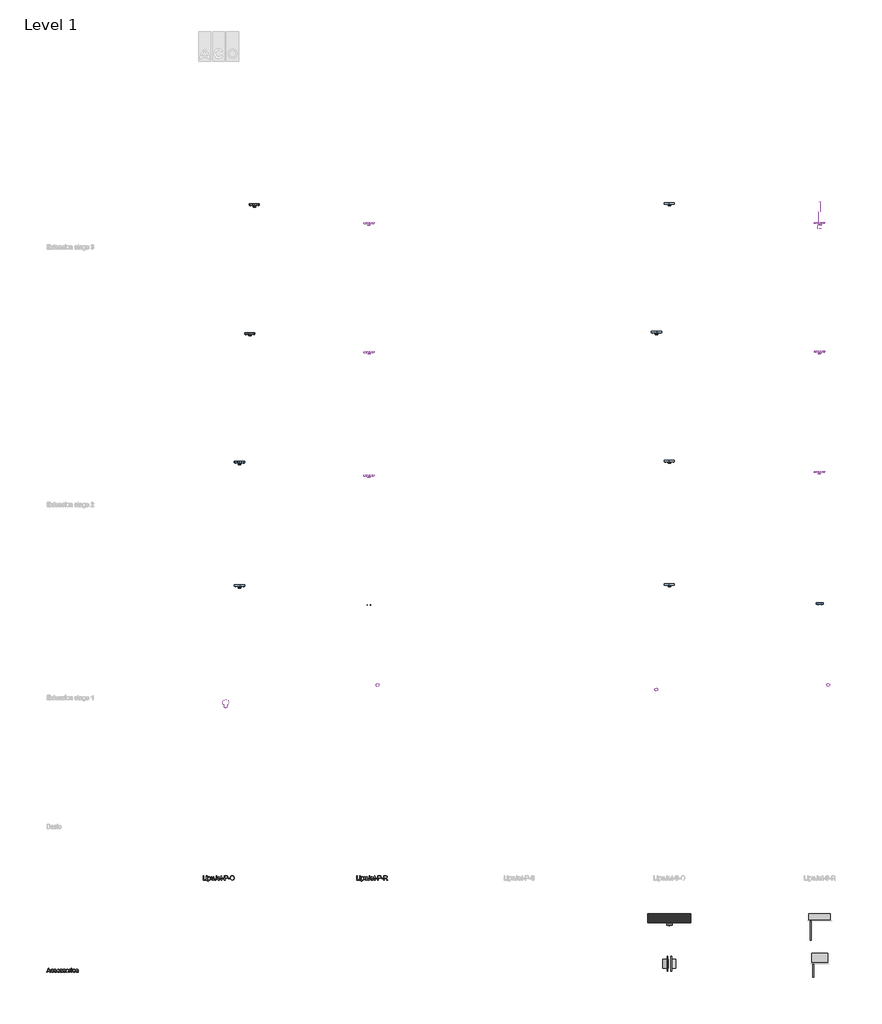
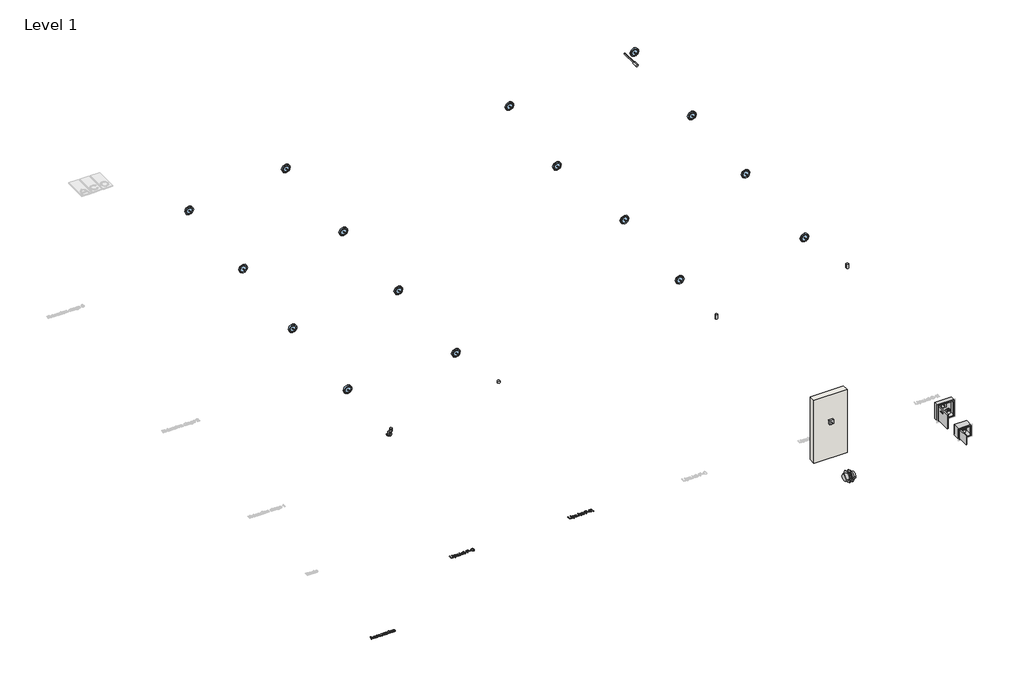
# One storey, part 1 of 3: 16 windows, 5 proxies, 5 unitary equipment elements, 2 furniture elements, 2 pipe fittings, 1 wall.
"""IFC4 building model written with IfcOpenShell, lengths in millimetres."""

from ifc_helpers import new_model, si_unit, origin, origin_with_axes, place, context, project, spatial, polyline, outline, extrude, transform, mapped, element, save
from components import cd_pvc_remote_control_aco_std_7b1f1c58, furniture_370x330x250_330b71c9, furniture_500x500x160_cb3627f5, std_2dac5c2e, ns2_601247f1, ns2_aebbb962, ns4_fcfb2e82, ns4_c199ca5a, std_bcf9d813, std_43f00bc0

model = new_model("IFC4")

# Units and contexts
model_context = context("Model", 3, world=origin())
ifc_project = project(units=[si_unit("LENGTHUNIT", "METRE", prefix="MILLI")], contexts=[model_context])

# Site, building, storey
site = spatial("IfcSite", under=ifc_project)
building = spatial("IfcBuilding", under=site)
storey = spatial("IfcBuildingStorey", under=building, Name="Level 1", Elevation=0.0)

# Proxies
placement = place(None, origin())
element("IfcBuildingElementProxy", 1, Name="100mm ACO", ObjectType="100mm ACO", at=placement, inside=storey, context=model_context, shape_type="SweptSolid", body=[
    extrude(outline(polyline([(702.7777778, -350.0), (639.8148148, -350.0), (639.8148148, -250.0), (652.7777778, -250.0), (652.7777778, -338.8888889), (702.7777778, -338.8888889), (702.7777778, -350.0)])), origin_with_axes(), (0.0, 0.0, 1.0), 10.0),
    extrude(outline(polyline([(728.7037037, -350.0), (715.7407407, -350.0), (715.7407407, -277.7777778), (728.7037037, -277.7777778), (728.7037037, -350.0)])), origin_with_axes(), (0.0, 0.0, 1.0), 10.0),
    extrude(outline(polyline([(728.7037037, -262.962963), (715.7407407, -262.962963), (715.7407407, -250.0), (728.7037037, -250.0), (728.7037037, -262.962963)])), origin_with_axes(), (0.0, 0.0, 1.0), 10.0),
    extrude(outline(polyline([(760.3153935, -286.4872685), (768.7717014, -278.5662616), (780.4398148, -275.9259259), (792.7662037, -278.515625), (802.1990741, -286.2847222), (808.1886574, -298.2132523), (810.1851852, -313.28125), (807.9282407, -329.1702836), (801.1574074, -341.4207176), (791.1024306, -349.2440683), (778.9930556, -351.8518519), (768.6197917, -349.7251157), (760.5324074, -343.3449074), (760.1851852, -377.7777778), (747.2222222, -377.7777778), (747.2222222, -277.7777778), (760.1851852, -277.7777778), (760.3153935, -286.4872685)]), holes=[polyline([(777.5752315, -342.5925926), (785.3479456, -340.766059), (791.6521991, -335.2864583), (795.8297164, -326.1899595), (797.2222222, -313.5127315), (795.880353, -301.4359086), (791.8547454, -292.5202546), (785.7385706, -287.0189525), (778.125, -285.1851852), (770.2437789, -287.2287326), (763.9033565, -293.359375), (759.7258391, -302.7452257), (758.3333333, -314.5543981), (759.6679688, -326.66739), (763.671875, -335.4600694), (769.816985, -340.8094618), (777.5752315, -342.5925926)])]), origin_with_axes(), (0.0, 0.0, 1.0), 10.0),
    extrude(outline(polyline([(884.2592593, -350.0), (873.1481481, -350.0), (873.1481481, -339.4965278), (862.9050926, -348.7630208), (849.9421296, -351.8518519), (835.8217593, -348.3362269), (827.1701389, -338.6574074), (825.0, -322.65625), (825.0, -277.7777778), (837.962963, -277.7777778), (837.962963, -318.75), (838.8599537, -332.8414352), (843.5474537, -339.84375), (852.5752315, -342.5925926), (865.3211806, -337.6736111), (869.8025174, -330.1215278), (871.2962963, -317.3032407), (871.2962963, -277.7777778), (884.2592593, -277.7777778), (884.2592593, -350.0)])), origin_with_axes(), (0.0, 0.0, 1.0), 10.0),
    extrude(outline(polyline([(952.7777778, -318.1134259), (950.9042245, -333.8143808), (945.2835648, -344.1695602), (936.3208912, -349.9312789), (924.4212963, -351.8518519), (912.5217014, -349.9891493), (904.0219907, -344.4010417), (898.9221644, -335.0730613), (897.2222222, -321.9907407), (910.1851852, -320.3703704), (914.0480324, -335.6481481), (925.1157407, -340.7407407), (935.0549769, -337.5), (939.0625, -330.0202546), (939.8148148, -319.4444444), (939.8148148, -250.0), (952.7777778, -250.0), (952.7777778, -318.1134259)])), origin_with_axes(), (0.0, 0.0, 1.0), 10.0),
    extrude(outline(polyline([(1034.2592593, -316.6666667), (980.5555556, -316.6666667), (982.6280382, -327.7922454), (987.3408565, -335.9375), (994.1225405, -340.9288194), (1002.4016204, -342.5925926), (1014.0769676, -338.9033565), (1021.2962963, -327.7777778), (1034.2592593, -329.2824074), (1029.8828125, -338.9033565), (1022.9456019, -346.0069444), (1013.7008102, -350.390625), (1002.4016204, -351.8518519), (987.8146701, -349.3453414), (976.8084491, -341.8258102), (969.8965567, -329.9660012), (967.5925926, -314.4386574), (969.8133681, -298.900463), (976.4756944, -286.6030093), (987.1744792, -278.5951968), (1001.5046296, -275.9259259), (1016.724537, -279.3836806), (1029.1521991, -291.1603009), (1032.9824942, -301.6963252), (1034.2592593, -316.6666667)]), holes=[polyline([(1021.2962963, -307.4074074), (1019.212963, -297.2511574), (1014.4675926, -290.3935185), (1001.1863426, -285.1851852), (993.3304398, -286.7332176), (987.0081019, -291.3773148), (980.5555556, -307.4074074), (1021.2962963, -307.4074074)])]), origin_with_axes(), (0.0, 0.0, 1.0), 10.0),
    extrude(outline(polyline([(1076.8518519, -351.0127315), (1067.7662037, -351.8518519), (1056.177662, -348.9728009), (1051.7361111, -341.6666667), (1050.9259259, -329.3402778), (1050.9259259, -287.037037), (1041.6666667, -287.037037), (1041.6666667, -277.7777778), (1050.9259259, -277.7777778), (1050.9259259, -259.4328704), (1063.8888889, -251.8518519), (1063.8888889, -277.7777778), (1075.0, -277.7777778), (1075.0, -287.037037), (1063.8888889, -287.037037), (1063.8888889, -331.9444444), (1064.9305556, -340.162037), (1070.2256944, -342.5925926), (1075.2604167, -342.5925926), (1076.8518519, -351.0127315)])), origin_with_axes(), (0.0, 0.0, 1.0), 10.0),
    extrude(outline(polyline([(1121.2962963, -316.6666667), (1082.4074074, -316.6666667), (1082.4074074, -307.4074074), (1121.2962963, -307.4074074), (1121.2962963, -316.6666667)])), origin_with_axes(), (0.0, 0.0, 1.0), 10.0),
    extrude(outline(polyline([(1136.1111111, -250.0), (1173.6689815, -250.0), (1188.9756944, -250.8825231), (1200.8969907, -255.46875), (1209.2158565, -265.5237269), (1212.037037, -278.8194444), (1209.8126447, -291.2507234), (1203.1394676, -300.9403935), (1191.5617766, -307.1795428), (1174.6238426, -309.2592593), (1149.0740741, -309.2592593), (1149.0740741, -350.0), (1136.1111111, -350.0), (1136.1111111, -250.0)]), holes=[polyline([(1149.0740741, -298.1481481), (1175.1446759, -298.1481481), (1193.0917245, -293.4100116), (1197.5784867, -287.4873409), (1199.0740741, -279.1956019), (1195.9635417, -268.2146991), (1188.3246528, -262.2829861), (1174.8553241, -261.1111111), (1149.0740741, -261.1111111), (1149.0740741, -298.1481481)])]), origin_with_axes(), (0.0, 0.0, 1.0), 10.0),
    extrude(outline(polyline([(1260.1851852, -316.6666667), (1221.2962963, -316.6666667), (1221.2962963, -307.4074074), (1260.1851852, -307.4074074), (1260.1851852, -316.6666667)])), origin_with_axes(), (0.0, 0.0, 1.0), 10.0),
    extrude(outline(polyline([(1317.6793981, -248.1481481), (1336.1689815, -251.7216435), (1350.9548611, -262.4421296), (1360.6553819, -279.0147569), (1363.8888889, -300.1446759), (1360.6372975, -321.1841725), (1350.8825231, -337.6591435), (1336.078559, -348.3036748), (1317.6793981, -351.8518519), (1298.8064236, -348.1734664), (1284.0277778, -337.1383102), (1274.4791667, -320.808015), (1271.2962963, -301.244213), (1274.5225694, -279.1630498), (1284.2013889, -262.3408565), (1299.0234375, -251.6963252), (1317.6793981, -248.1481481)]), holes=[polyline([(1317.5636574, -340.7407407), (1331.0040509, -338.0570023), (1341.6377315, -330.005787), (1348.5749421, -317.1730324), (1350.9259259, -300.1446759), (1348.5713252, -282.7365451), (1341.5075231, -269.8640046), (1330.8774595, -261.9104456), (1317.8240741, -259.2592593), (1304.4777199, -261.8561921), (1293.7210648, -269.6469907), (1286.6247106, -282.8052662), (1284.2592593, -301.5046296), (1286.5740741, -317.3864294), (1293.5185185, -329.9045139), (1304.1594329, -338.031684), (1317.5636574, -340.7407407)])]), origin_with_axes(), (0.0, 0.0, 1.0), 10.0),
])
element("IfcBuildingElementProxy", 2, Name="100mm ACO", ObjectType="100mm ACO", at=placement, inside=storey, context=model_context, shape_type="SweptSolid", body=[
    extrude(outline(polyline([(4274.9814815, -350.0), (4212.0185185, -350.0), (4212.0185185, -250.0), (4224.9814815, -250.0), (4224.9814815, -338.8888889), (4274.9814815, -338.8888889), (4274.9814815, -350.0)])), origin_with_axes(), (0.0, 0.0, 1.0), 10.0),
    extrude(outline(polyline([(4300.9074074, -350.0), (4287.9444444, -350.0), (4287.9444444, -277.7777778), (4300.9074074, -277.7777778), (4300.9074074, -350.0)])), origin_with_axes(), (0.0, 0.0, 1.0), 10.0),
    extrude(outline(polyline([(4300.9074074, -262.962963), (4287.9444444, -262.962963), (4287.9444444, -250.0), (4300.9074074, -250.0), (4300.9074074, -262.962963)])), origin_with_axes(), (0.0, 0.0, 1.0), 10.0),
    extrude(outline(polyline([(4332.5190972, -286.4872685), (4340.9754051, -278.5662616), (4352.6435185, -275.9259259), (4364.9699074, -278.515625), (4374.4027778, -286.2847222), (4380.3923611, -298.2132523), (4382.3888889, -313.28125), (4380.1319444, -329.1702836), (4373.3611111, -341.4207176), (4363.3061343, -349.2440683), (4351.1967593, -351.8518519), (4340.8234954, -349.7251157), (4332.7361111, -343.3449074), (4332.3888889, -377.7777778), (4319.4259259, -377.7777778), (4319.4259259, -277.7777778), (4332.3888889, -277.7777778), (4332.5190972, -286.4872685)]), holes=[polyline([(4349.7789352, -342.5925926), (4357.5516493, -340.766059), (4363.8559028, -335.2864583), (4368.0334201, -326.1899595), (4369.4259259, -313.5127315), (4368.0840567, -301.4359086), (4364.0584491, -292.5202546), (4357.9422743, -287.0189525), (4350.3287037, -285.1851852), (4342.4474826, -287.2287326), (4336.1070602, -293.359375), (4331.9295428, -302.7452257), (4330.537037, -314.5543981), (4331.8716725, -326.66739), (4335.8755787, -335.4600694), (4342.0206887, -340.8094618), (4349.7789352, -342.5925926)])]), origin_with_axes(), (0.0, 0.0, 1.0), 10.0),
    extrude(outline(polyline([(4456.462963, -350.0), (4445.3518519, -350.0), (4445.3518519, -339.4965278), (4435.1087963, -348.7630208), (4422.1458333, -351.8518519), (4408.025463, -348.3362269), (4399.3738426, -338.6574074), (4397.2037037, -322.65625), (4397.2037037, -277.7777778), (4410.1666667, -277.7777778), (4410.1666667, -318.75), (4411.0636574, -332.8414352), (4415.7511574, -339.84375), (4424.7789352, -342.5925926), (4437.5248843, -337.6736111), (4442.0062211, -330.1215278), (4443.5, -317.3032407), (4443.5, -277.7777778), (4456.462963, -277.7777778), (4456.462963, -350.0)])), origin_with_axes(), (0.0, 0.0, 1.0), 10.0),
    extrude(outline(polyline([(4524.9814815, -318.1134259), (4523.1079282, -333.8143808), (4517.4872685, -344.1695602), (4508.5245949, -349.9312789), (4496.625, -351.8518519), (4484.7254051, -349.9891493), (4476.2256944, -344.4010417), (4471.1258681, -335.0730613), (4469.4259259, -321.9907407), (4482.3888889, -320.3703704), (4486.2517361, -335.6481481), (4497.3194444, -340.7407407), (4507.2586806, -337.5), (4511.2662037, -330.0202546), (4512.0185185, -319.4444444), (4512.0185185, -250.0), (4524.9814815, -250.0), (4524.9814815, -318.1134259)])), origin_with_axes(), (0.0, 0.0, 1.0), 10.0),
    extrude(outline(polyline([(4606.462963, -316.6666667), (4552.7592593, -316.6666667), (4554.8317419, -327.7922454), (4559.5445602, -335.9375), (4566.3262442, -340.9288194), (4574.6053241, -342.5925926), (4586.2806713, -338.9033565), (4593.5, -327.7777778), (4606.462963, -329.2824074), (4602.0865162, -338.9033565), (4595.1493056, -346.0069444), (4585.9045139, -350.390625), (4574.6053241, -351.8518519), (4560.0183738, -349.3453414), (4549.0121528, -341.8258102), (4542.1002604, -329.9660012), (4539.7962963, -314.4386574), (4542.0170718, -298.900463), (4548.6793981, -286.6030093), (4559.3781829, -278.5951968), (4573.7083333, -275.9259259), (4588.9282407, -279.3836806), (4601.3559028, -291.1603009), (4605.1861979, -301.6963252), (4606.462963, -316.6666667)]), holes=[polyline([(4593.5, -307.4074074), (4591.4166667, -297.2511574), (4586.6712963, -290.3935185), (4573.3900463, -285.1851852), (4565.5341435, -286.7332176), (4559.2118056, -291.3773148), (4552.7592593, -307.4074074), (4593.5, -307.4074074)])]), origin_with_axes(), (0.0, 0.0, 1.0), 10.0),
    extrude(outline(polyline([(4649.0555556, -351.0127315), (4639.9699074, -351.8518519), (4628.3813657, -348.9728009), (4623.9398148, -341.6666667), (4623.1296296, -329.3402778), (4623.1296296, -287.037037), (4613.8703704, -287.037037), (4613.8703704, -277.7777778), (4623.1296296, -277.7777778), (4623.1296296, -259.4328704), (4636.0925926, -251.8518519), (4636.0925926, -277.7777778), (4647.2037037, -277.7777778), (4647.2037037, -287.037037), (4636.0925926, -287.037037), (4636.0925926, -331.9444444), (4637.1342593, -340.162037), (4642.4293981, -342.5925926), (4647.4641204, -342.5925926), (4649.0555556, -351.0127315)])), origin_with_axes(), (0.0, 0.0, 1.0), 10.0),
    extrude(outline(polyline([(4693.5, -316.6666667), (4654.6111111, -316.6666667), (4654.6111111, -307.4074074), (4693.5, -307.4074074), (4693.5, -316.6666667)])), origin_with_axes(), (0.0, 0.0, 1.0), 10.0),
    extrude(outline(polyline([(4708.3148148, -250.0), (4745.8726852, -250.0), (4761.1793981, -250.8825231), (4773.1006944, -255.46875), (4781.4195602, -265.5237269), (4784.2407407, -278.8194444), (4782.0163484, -291.2507234), (4775.3431713, -300.9403935), (4763.7654803, -307.1795428), (4746.8275463, -309.2592593), (4721.2777778, -309.2592593), (4721.2777778, -350.0), (4708.3148148, -350.0), (4708.3148148, -250.0)]), holes=[polyline([(4721.2777778, -298.1481481), (4747.3483796, -298.1481481), (4765.2954282, -293.4100116), (4769.7821904, -287.4873409), (4771.2777778, -279.1956019), (4768.1672454, -268.2146991), (4760.5283565, -262.2829861), (4747.0590278, -261.1111111), (4721.2777778, -261.1111111), (4721.2777778, -298.1481481)])]), origin_with_axes(), (0.0, 0.0, 1.0), 10.0),
    extrude(outline(polyline([(4832.3888889, -316.6666667), (4793.5, -316.6666667), (4793.5, -307.4074074), (4832.3888889, -307.4074074), (4832.3888889, -316.6666667)])), origin_with_axes(), (0.0, 0.0, 1.0), 10.0),
    extrude(outline(polyline([(4934.7037037, -350.0), (4919.7152778, -350.0), (4900.9508102, -320.1388889), (4893.181713, -311.009838), (4885.4560185, -306.4959491), (4875.8784722, -305.5555556), (4860.1666667, -305.5555556), (4860.1666667, -350.0), (4847.2037037, -350.0), (4847.2037037, -250.0), (4891.3298611, -250.0), (4906.5063657, -251.1429398), (4917.2413194, -255.9461806), (4924.3449074, -265.1765046), (4926.8333333, -276.9097222), (4925.0176505, -286.9610822), (4919.5706019, -294.8350694), (4910.7019676, -300.3797743), (4898.6215278, -303.443287), (4908.2786458, -310.9302662), (4917.3425926, -322.5983796), (4934.7037037, -350.0)]), holes=[polyline([(4860.1666667, -294.4444444), (4888.9282407, -294.4444444), (4902.7158565, -292.96875), (4910.8321759, -287.2251157), (4913.8703704, -277.6331019), (4908.8211806, -265.9288194), (4902.1335359, -262.3155382), (4892.1689815, -261.1111111), (4860.1666667, -261.1111111), (4860.1666667, -294.4444444)])]), origin_with_axes(), (0.0, 0.0, 1.0), 10.0),
])
element("IfcBuildingElementProxy", 3, Name="100mm ACO", ObjectType="100mm ACO", at=placement, inside=storey, context=model_context, shape_type="SweptSolid", body=[
    extrude(outline(polyline([(-2915.72885, -2500.0), (-2929.5309333, -2500.0), (-2941.5101, -2470.3703704), (-2983.9580167, -2470.3703704), (-2995.4742204, -2500.0), (-3009.2473685, -2500.0), (-2970.3874148, -2400.0), (-2956.2091741, -2400.0), (-2915.72885, -2500.0)]), holes=[polyline([(-2946.0239889, -2459.2592593), (-2960.4481787, -2422.5983796), (-2963.4140352, -2410.9375), (-2968.0726, -2429.5138889), (-2979.6177389, -2459.2592593), (-2946.0239889, -2459.2592593)])]), origin_with_axes(), (0.0, 0.0, 1.0), 10.0),
    extrude(outline(polyline([(-2845.8214426, -2475.5497685), (-2849.8506671, -2487.3553241), (-2857.0193593, -2495.5150463), (-2866.3437227, -2500.2676505), (-2876.8399611, -2501.8518519), (-2891.155644, -2499.2621528), (-2901.8110259, -2491.4930556), (-2908.4299495, -2479.4487847), (-2910.6362574, -2464.0335648), (-2905.6015352, -2441.3483796), (-2893.000262, -2429.3836806), (-2877.1003778, -2425.9259259), (-2857.6414657, -2431.5827546), (-2851.1057308, -2438.566985), (-2847.6732944, -2448.2060185), (-2860.6362574, -2450.0), (-2866.5390352, -2438.9033565), (-2876.9557019, -2435.1851852), (-2885.9111417, -2437.0695891), (-2892.4070907, -2442.7228009), (-2896.3567435, -2451.7541956), (-2897.6732944, -2463.7731481), (-2896.3531266, -2476.0018808), (-2892.3926231, -2485.083912), (-2885.9436937, -2490.7154225), (-2877.1582481, -2492.5925926), (-2864.556975, -2487.962963), (-2858.7844056, -2474.0740741), (-2845.8214426, -2475.5497685)])), origin_with_axes(), (0.0, 0.0, 1.0), 10.0),
    extrude(outline(polyline([(-2777.3029241, -2475.5497685), (-2781.3321486, -2487.3553241), (-2788.5008407, -2495.5150463), (-2797.8252042, -2500.2676505), (-2808.3214426, -2501.8518519), (-2822.6371255, -2499.2621528), (-2833.2925074, -2491.4930556), (-2839.911431, -2479.4487847), (-2842.1177389, -2464.0335648), (-2837.0830167, -2441.3483796), (-2824.4817435, -2429.3836806), (-2808.5818593, -2425.9259259), (-2789.1229472, -2431.5827546), (-2782.5872123, -2438.566985), (-2779.1547759, -2448.2060185), (-2792.1177389, -2450.0), (-2798.0205167, -2438.9033565), (-2808.4371833, -2435.1851852), (-2817.3926231, -2437.0695891), (-2823.8885722, -2442.7228009), (-2827.838225, -2451.7541956), (-2829.1547759, -2463.7731481), (-2827.8346081, -2476.0018808), (-2823.8741046, -2485.083912), (-2817.4251752, -2490.7154225), (-2808.6397296, -2492.5925926), (-2796.0384565, -2487.962963), (-2790.265887, -2474.0740741), (-2777.3029241, -2475.5497685)])), origin_with_axes(), (0.0, 0.0, 1.0), 10.0),
    extrude(outline(polyline([(-2706.9325537, -2466.6666667), (-2760.6362574, -2466.6666667), (-2758.5637748, -2477.7922454), (-2753.8509565, -2485.9375), (-2747.0692725, -2490.9288194), (-2738.7901926, -2492.5925926), (-2727.1148454, -2488.9033565), (-2719.8955167, -2477.7777778), (-2706.9325537, -2479.2824074), (-2711.3090005, -2488.9033565), (-2718.2462111, -2496.0069444), (-2727.4910028, -2500.390625), (-2738.7901926, -2501.8518519), (-2753.3771428, -2499.3453414), (-2764.3833639, -2491.8258102), (-2771.2952562, -2479.9660012), (-2773.5992204, -2464.4386574), (-2771.3784449, -2448.900463), (-2764.7161185, -2436.6030093), (-2754.0173338, -2428.5951968), (-2739.6871833, -2425.9259259), (-2724.4672759, -2429.3836806), (-2712.0396139, -2441.1603009), (-2708.2093187, -2451.6963252), (-2706.9325537, -2466.6666667)]), holes=[polyline([(-2719.8955167, -2457.4074074), (-2721.97885, -2447.2511574), (-2726.7242204, -2440.3935185), (-2740.0054704, -2435.1851852), (-2747.8613731, -2436.7332176), (-2754.1837111, -2441.3773148), (-2760.6362574, -2457.4074074), (-2719.8955167, -2457.4074074)])]), origin_with_axes(), (0.0, 0.0, 1.0), 10.0),
    extrude(outline(polyline([(-2651.3769981, -2448.1481481), (-2656.1657713, -2438.4259259), (-2667.2334796, -2435.1851852), (-2678.547137, -2437.962963), (-2682.8584796, -2446.0358796), (-2680.0083639, -2453.1828704), (-2666.5679704, -2457.0601852), (-2648.8451694, -2461.2268519), (-2639.8029241, -2467.5491898), (-2636.5621833, -2478.8773148), (-2638.5731787, -2487.8074363), (-2644.6061648, -2495.2112269), (-2654.0028662, -2500.1916956), (-2666.1050074, -2501.8518519), (-2678.5796891, -2500.4557292), (-2687.994475, -2496.2673611), (-2694.3565988, -2489.2939815), (-2697.6732944, -2479.5428241), (-2684.7103315, -2477.7777778), (-2679.1113731, -2488.9033565), (-2666.1050074, -2492.5925926), (-2653.8075537, -2488.7586806), (-2649.5251463, -2479.4270833), (-2651.4493361, -2473.4519676), (-2656.2525769, -2470.0810185), (-2669.8376463, -2467.1875), (-2690.7722528, -2459.375), (-2695.8214426, -2446.7881944), (-2693.9515062, -2438.5018808), (-2688.3416972, -2431.8142361), (-2679.5707192, -2427.3980035), (-2668.2172759, -2425.9259259), (-2656.2851289, -2427.2135417), (-2647.3405398, -2431.0763889), (-2641.3835086, -2437.5072338), (-2638.4140352, -2446.4988426), (-2651.3769981, -2448.1481481)])), origin_with_axes(), (0.0, 0.0, 1.0), 10.0),
    extrude(outline(polyline([(-2582.8584796, -2448.1481481), (-2587.6472528, -2438.4259259), (-2598.7149611, -2435.1851852), (-2610.0286185, -2437.962963), (-2614.3399611, -2446.0358796), (-2611.4898454, -2453.1828704), (-2598.0494519, -2457.0601852), (-2580.3266509, -2461.2268519), (-2571.2844056, -2467.5491898), (-2568.0436648, -2478.8773148), (-2570.0546602, -2487.8074363), (-2576.0876463, -2495.2112269), (-2585.4843477, -2500.1916956), (-2597.5864889, -2501.8518519), (-2610.0611706, -2500.4557292), (-2619.4759565, -2496.2673611), (-2625.8380803, -2489.2939815), (-2629.1547759, -2479.5428241), (-2616.191813, -2477.7777778), (-2610.5928546, -2488.9033565), (-2597.5864889, -2492.5925926), (-2585.2890352, -2488.7586806), (-2581.0066278, -2479.4270833), (-2582.9308176, -2473.4519676), (-2587.7340583, -2470.0810185), (-2601.3191278, -2467.1875), (-2622.2537343, -2459.375), (-2627.3029241, -2446.7881944), (-2625.4329877, -2438.5018808), (-2619.8231787, -2431.8142361), (-2611.0522007, -2427.3980035), (-2599.6987574, -2425.9259259), (-2587.7666104, -2427.2135417), (-2578.8220213, -2431.0763889), (-2572.86499, -2437.5072338), (-2569.8955167, -2446.4988426), (-2582.8584796, -2448.1481481)])), origin_with_axes(), (0.0, 0.0, 1.0), 10.0),
    extrude(outline(polyline([(-2525.4800074, -2425.9259259), (-2512.3036475, -2428.3203125), (-2501.594012, -2435.5034722), (-2494.4868072, -2447.0992477), (-2492.1177389, -2462.7314815), (-2494.6821197, -2481.0040509), (-2502.375262, -2492.9976852), (-2513.28021, -2499.6383102), (-2525.4800074, -2501.8518519), (-2538.0704299, -2499.5768229), (-2548.8741046, -2492.7517361), (-2556.3068303, -2480.9859664), (-2558.7844056, -2463.8888889), (-2556.390019, -2447.1715856), (-2549.2068593, -2435.3298611), (-2538.4863731, -2428.2769097), (-2525.4800074, -2425.9259259)]), holes=[polyline([(-2525.4800074, -2492.5925926), (-2516.6728604, -2490.5852141), (-2510.2745676, -2484.5630787), (-2505.0807019, -2463.4259259), (-2506.5491625, -2451.1429398), (-2510.9545444, -2442.3032407), (-2517.5228315, -2436.9646991), (-2525.4800074, -2435.1851852), (-2533.59271, -2436.9900174), (-2540.1067435, -2442.4045139), (-2544.3927678, -2451.3925058), (-2545.8214426, -2463.9178241), (-2544.3674495, -2476.3997396), (-2540.0054704, -2485.3732639), (-2533.4661185, -2490.7877604), (-2525.4800074, -2492.5925926)])]), origin_with_axes(), (0.0, 0.0, 1.0), 10.0),
    extrude(outline(polyline([(-2438.4140352, -2428.7615741), (-2442.4649611, -2437.037037), (-2450.9719056, -2435.1851852), (-2456.7661764, -2436.8127894), (-2460.9545444, -2441.6956019), (-2464.3399611, -2459.9247685), (-2464.3399611, -2500.0), (-2477.3029241, -2500.0), (-2477.3029241, -2427.7777778), (-2466.191813, -2427.7777778), (-2466.191813, -2438.4837963), (-2459.2618361, -2429.0653935), (-2450.8272296, -2425.9259259), (-2438.4140352, -2428.7615741)])), origin_with_axes(), (0.0, 0.0, 1.0), 10.0),
    extrude(outline(polyline([(-2418.0436648, -2500.0), (-2431.0066278, -2500.0), (-2431.0066278, -2427.7777778), (-2418.0436648, -2427.7777778), (-2418.0436648, -2500.0)])), origin_with_axes(), (0.0, 0.0, 1.0), 10.0),
    extrude(outline(polyline([(-2418.0436648, -2412.962963), (-2431.0066278, -2412.962963), (-2431.0066278, -2400.0), (-2418.0436648, -2400.0), (-2418.0436648, -2412.962963)])), origin_with_axes(), (0.0, 0.0, 1.0), 10.0),
    extrude(outline(polyline([(-2336.5621833, -2466.6666667), (-2390.265887, -2466.6666667), (-2388.1934044, -2477.7922454), (-2383.4805861, -2485.9375), (-2376.6989021, -2490.9288194), (-2368.4198222, -2492.5925926), (-2356.744475, -2488.9033565), (-2349.5251463, -2477.7777778), (-2336.5621833, -2479.2824074), (-2340.9386301, -2488.9033565), (-2347.8758407, -2496.0069444), (-2357.1206324, -2500.390625), (-2368.4198222, -2501.8518519), (-2383.0067725, -2499.3453414), (-2394.0129935, -2491.8258102), (-2400.9248859, -2479.9660012), (-2403.22885, -2464.4386574), (-2401.0080745, -2448.900463), (-2394.3457481, -2436.6030093), (-2383.6469634, -2428.5951968), (-2369.316813, -2425.9259259), (-2354.0969056, -2429.3836806), (-2341.6692435, -2441.1603009), (-2337.8389484, -2451.6963252), (-2336.5621833, -2466.6666667)]), holes=[polyline([(-2349.5251463, -2457.4074074), (-2351.6084796, -2447.2511574), (-2356.35385, -2440.3935185), (-2369.6351, -2435.1851852), (-2377.4910028, -2436.7332176), (-2383.8133407, -2441.3773148), (-2390.265887, -2457.4074074), (-2349.5251463, -2457.4074074)])]), origin_with_axes(), (0.0, 0.0, 1.0), 10.0),
    extrude(outline(polyline([(-2281.0066278, -2448.1481481), (-2285.7954009, -2438.4259259), (-2296.8631093, -2435.1851852), (-2308.1767667, -2437.962963), (-2312.4881093, -2446.0358796), (-2309.6379935, -2453.1828704), (-2296.1976, -2457.0601852), (-2278.4747991, -2461.2268519), (-2269.4325537, -2467.5491898), (-2266.191813, -2478.8773148), (-2268.2028083, -2487.8074363), (-2274.2357944, -2495.2112269), (-2283.6324958, -2500.1916956), (-2295.734637, -2501.8518519), (-2308.2093187, -2500.4557292), (-2317.6241046, -2496.2673611), (-2323.9862285, -2489.2939815), (-2327.3029241, -2479.5428241), (-2314.3399611, -2477.7777778), (-2308.7410028, -2488.9033565), (-2295.734637, -2492.5925926), (-2283.4371833, -2488.7586806), (-2279.1547759, -2479.4270833), (-2281.0789657, -2473.4519676), (-2285.8822065, -2470.0810185), (-2299.4672759, -2467.1875), (-2320.4018824, -2459.375), (-2325.4510722, -2446.7881944), (-2323.5811359, -2438.5018808), (-2317.9713269, -2431.8142361), (-2309.2003488, -2427.3980035), (-2297.8469056, -2425.9259259), (-2285.9147586, -2427.2135417), (-2276.9701694, -2431.0763889), (-2271.0131382, -2437.5072338), (-2268.0436648, -2446.4988426), (-2281.0066278, -2448.1481481)])), origin_with_axes(), (0.0, 0.0, 1.0), 10.0),
])
cd_pvc_remote_control_aco_std_shape = cd_pvc_remote_control_aco_std_7b1f1c58(model_context)
element("IfcBuildingElementProxy", 4, Name="CD_PVC_remote control_ACO : std", ObjectType="CD_PVC_remote control_ACO : std", at=placement, inside=storey, context=model_context, shape_type="MappedRepresentation", body=[
    mapped(cd_pvc_remote_control_aco_std_shape, transform((11500.0, -1340.0, 1171.0072803), x_axis=(1.0, 0.0, 0.0), y_axis=(0.0, 0.0, 1.0), z_axis=(0.0, -1.0, 0.0))),
])
element("IfcBuildingElementProxy", 5, Name="ZZZ_do not use_CD_PVC_remote control_ACO : std", ObjectType="ZZZ_do not use_CD_PVC_remote control_ACO : std", at=placement, inside=storey, context=model_context, shape_type="MappedRepresentation", body=[
    mapped(cd_pvc_remote_control_aco_std_shape, transform((15000.0, -1142.0, 362.5), x_axis=(1.0, 0.0, 0.0), y_axis=(0.0, 0.0, 1.0), z_axis=(0.0, -1.0, 0.0))),
])

# Furniture
furniture_370x330x250_shape = furniture_370x330x250_330b71c9(model_context)
element("IfcFurniture", 6, ObjectType="ME_ST_UN_connection box single connection_ACO : 370x330x250", at=placement, inside=storey, context=model_context, shape_type="MappedRepresentation", body=[
    mapped(furniture_370x330x250_shape, transform((15000.0, -2300.0, 0.0), x_axis=(1.0, 0.0, 0.0), y_axis=(0.0, 1.0, 0.0), z_axis=(0.0, 0.0, 1.0))),
])
furniture_500x500x160_shape = furniture_500x500x160_cb3627f5(model_context)
element("IfcFurniture", 7, ObjectType="ME_ST_UN_connection box double connection_ACO : 500x500x160", at=placement, inside=storey, context=model_context, shape_type="MappedRepresentation", body=[
    mapped(furniture_500x500x160_shape, transform((15000.0, -1300.0, 0.0), x_axis=(1.0, 0.0, 0.0), y_axis=(0.0, 1.0, 0.0), z_axis=(0.0, 0.0, 1.0))),
])

# Pipe fittings
std_shape = std_2dac5c2e(model_context)
element("IfcPipeFitting", 8, ObjectType="ZZZ_do not use_PIF_ST_UN_flange_ACO : std", at=placement, inside=storey, context=model_context, shape_type="MappedRepresentation", body=[
    mapped(std_shape, transform((11530.0, -2300.0, 0.0), x_axis=(1.0, 0.0, 0.0), y_axis=(0.0, 1.0, 0.0), z_axis=(0.0, 0.0, 1.0))),
])
element("IfcPipeFitting", 9, ObjectType="ZZZ_do not use_PIF_ST_UN_flange_ACO : std", at=placement, inside=storey, context=model_context, shape_type="MappedRepresentation", body=[
    mapped(std_shape, transform((11470.0, -2300.0, 0.0), x_axis=(-1.0000000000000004, 0.0, 0.0), y_axis=(0.0, -1.0000000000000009, 0.0), z_axis=(0.0, 0.0, 1.0000000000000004))),
])

# Unitary equipment
ns2_shape = ns2_601247f1(model_context)
element("IfcUnitaryEquipment", 10, ObjectType="ME_ST_UN_LipuJet-S-OD extension stage 1_ACO : NS2", at=placement, inside=storey, context=model_context, shape_type="MappedRepresentation", body=[
    mapped(ns2_shape, transform((11500.0, 3850.0, 0.0), x_axis=(1.0, 0.0, 0.0), y_axis=(0.0, 1.0, 0.0), z_axis=(0.0, 0.0, 1.0))),
])
ns2_2_shape = ns2_aebbb962(model_context)
element("IfcUnitaryEquipment", 11, ObjectType="ME_PE_UN_LipuJet-P-OD extension stage 1_ACO : NS2", at=placement, inside=storey, context=model_context, shape_type="MappedRepresentation", body=[
    mapped(ns2_2_shape, transform((1000.0, 3850.0, 0.0), x_axis=(1.0, 0.0, 0.0), y_axis=(0.0, 1.0, 0.0), z_axis=(0.0, 0.0, 1.0))),
])
ns4_shape = ns4_fcfb2e82(model_context)
element("IfcUnitaryEquipment", 12, ObjectType="ME_ST_UN_LipuJet-S-RD extension stage 1_ACO : NS4", at=placement, inside=storey, context=model_context, shape_type="MappedRepresentation", body=[
    mapped(ns4_shape, transform((15000.0, 3850.0, 0.0), x_axis=(1.0, 0.0, 0.0), y_axis=(0.0, 1.0, 0.0), z_axis=(0.0, 0.0, 1.0))),
])
ns4_2_shape = ns4_c199ca5a(model_context)
element("IfcUnitaryEquipment", 13, ObjectType="ME_PE_UN_LipuJet-P-RD extension stage 1_ACO : NS4", at=placement, inside=storey, context=model_context, shape_type="MappedRepresentation", body=[
    mapped(ns4_2_shape, transform((4500.0, 3850.0, 0.0), x_axis=(1.0, 0.0, 0.0), y_axis=(0.0, 1.0, 0.0), z_axis=(0.0, 0.0, 1.0))),
])
std_2_shape = std_bcf9d813(model_context)
element("IfcUnitaryEquipment", 14, ObjectType="ZZZ_do not use_ME_ST_WPB_heating rod_ACO : std", at=placement, inside=storey, context=model_context, shape_type="MappedRepresentation", body=[
    mapped(std_2_shape, transform((15000.0, 14950.0, 1473.0), x_axis=(0.0, 0.0, 1.0), y_axis=(-1.0, 0.0, 0.0), z_axis=(0.0, -1.0, 0.0))),
])

# Wall
element("IfcWall", 15, ObjectType="Wall 1", at=placement, inside=storey, context=model_context, shape_type="SweptSolid", body=[
    extrude(outline(polyline([(12000.0, -1340.0), (11000.0, -1340.0), (11000.0, -1140.0), (12000.0, -1140.0), (12000.0, -1340.0)])), origin_with_axes(), (0.0, 0.0, 1.0), 2000.0),
])

# Windows
std_3_shape = std_43f00bc0(model_context)
element("IfcWindow", 16, ObjectType="ZZZ_do not use_ME_PE_WPB_viewing window LipuJet-P_ACO : std", at=placement, inside=storey, context=model_context, shape_type="MappedRepresentation", body=[
    mapped(std_3_shape, transform((4500.0, 11942.5, 1606.5), x_axis=(0.0, 0.0, 1.0), y_axis=(-1.0, 0.0, 0.0), z_axis=(0.0, -1.0, 0.0))),
])
element("IfcWindow", 17, ObjectType="ZZZ_do not use_ME_PE_WPB_viewing window LipuJet-P_ACO : std", at=placement, inside=storey, context=model_context, shape_type="MappedRepresentation", body=[
    mapped(std_3_shape, transform((4500.0, 14942.5, 1796.5), x_axis=(0.0, 0.0, 1.0), y_axis=(-1.0, 0.0, 0.0), z_axis=(0.0, -1.0, 0.0))),
])
element("IfcWindow", 18, ObjectType="ZZZ_do not use_ME_PE_WPB_viewing window LipuJet-P_ACO : std", at=placement, inside=storey, context=model_context, shape_type="MappedRepresentation", body=[
    mapped(std_3_shape, transform((4500.0, 6070.0, 1302.0), x_axis=(0.0, 0.0, 1.0), y_axis=(-1.0, 0.0, 0.0), z_axis=(0.0, -1.0, 0.0))),
])
element("IfcWindow", 19, ObjectType="ZZZ_do not use_ME_PE_WPB_viewing window LipuJet-P_ACO : std", at=placement, inside=storey, context=model_context, shape_type="MappedRepresentation", body=[
    mapped(std_3_shape, transform((4500.0, 9070.0, 1472.0), x_axis=(0.0, 0.0, 1.0), y_axis=(-1.0, 0.0, 0.0), z_axis=(0.0, -1.0, 0.0))),
])
element("IfcWindow", 20, ObjectType="ZZZ_do not use_ME_PE_WPB_viewing window LipuJet-P_ACO : std", at=placement, inside=storey, context=model_context, shape_type="MappedRepresentation", body=[
    mapped(std_3_shape, transform((1727.5, 12375.0, 1130.5), x_axis=(0.0, 0.0, 1.0), y_axis=(-1.0, 0.0, 0.0), z_axis=(0.0, -1.0, 0.0))),
])
element("IfcWindow", 21, ObjectType="ZZZ_do not use_ME_PE_WPB_viewing window LipuJet-P_ACO : std", at=placement, inside=storey, context=model_context, shape_type="MappedRepresentation", body=[
    mapped(std_3_shape, transform((1832.5, 15375.0, 1130.5), x_axis=(0.0, 0.0, 1.0), y_axis=(-1.0, 0.0, 0.0), z_axis=(0.0, -1.0, 0.0))),
])
element("IfcWindow", 22, ObjectType="ZZZ_do not use_ME_PE_WPB_viewing window LipuJet-P_ACO : std", at=placement, inside=storey, context=model_context, shape_type="MappedRepresentation", body=[
    mapped(std_3_shape, transform((1487.5, 6500.0, 930.5), x_axis=(0.0, 0.0, 1.0), y_axis=(-1.0, 0.0, 0.0), z_axis=(0.0, -1.0, 0.0))),
])
element("IfcWindow", 23, ObjectType="ZZZ_do not use_ME_PE_WPB_viewing window LipuJet-P_ACO : std", at=placement, inside=storey, context=model_context, shape_type="MappedRepresentation", body=[
    mapped(std_3_shape, transform((1487.5, 9375.0, 1130.5), x_axis=(0.0, 0.0, 1.0), y_axis=(-1.0, 0.0, 0.0), z_axis=(0.0, -1.0, 0.0))),
])
element("IfcWindow", 24, ObjectType="ZZZ_do not use_ME_PE_WPB_viewing window LipuJet-S_ACO : std", at=placement, inside=storey, context=model_context, shape_type="MappedRepresentation", body=[
    mapped(std_3_shape, transform((11499.5, 6532.5, 899.5), x_axis=(0.0, 0.0, 1.0), y_axis=(-1.0, 0.0, 0.0), z_axis=(0.0, -1.0, 0.0))),
])
element("IfcWindow", 25, ObjectType="ZZZ_do not use_ME_PE_WPB_viewing window LipuJet-S_ACO : std", at=placement, inside=storey, context=model_context, shape_type="MappedRepresentation", body=[
    mapped(std_3_shape, transform((11499.5, 9407.5, 1069.5), x_axis=(0.0, 0.0, 1.0), y_axis=(-1.0, 0.0, 0.0), z_axis=(0.0, -1.0, 0.0))),
])
element("IfcWindow", 26, ObjectType="ZZZ_do not use_ME_PE_WPB_viewing window LipuJet-S_ACO : std", at=placement, inside=storey, context=model_context, shape_type="MappedRepresentation", body=[
    mapped(std_3_shape, transform((15000.0, 11953.5, 1617.8), x_axis=(0.0, 0.0, 1.0), y_axis=(-1.0, 0.0, 0.0), z_axis=(0.0, -1.0, 0.0))),
])
element("IfcWindow", 27, ObjectType="ZZZ_do not use_ME_PE_WPB_viewing window LipuJet-S_ACO : std", at=placement, inside=storey, context=model_context, shape_type="MappedRepresentation", body=[
    mapped(std_3_shape, transform((15000.0, 14953.5, 1817.8), x_axis=(0.0, 0.0, 1.0), y_axis=(-1.0, 0.0, 0.0), z_axis=(0.0, -1.0, 0.0))),
])
element("IfcWindow", 28, ObjectType="ZZZ_do not use_ME_PE_WPB_viewing window LipuJet-S_ACO : std", at=placement, inside=storey, context=model_context, shape_type="MappedRepresentation", body=[
    mapped(std_3_shape, transform((15000.0, 6081.0, 1290.5), x_axis=(0.0, 0.0, 1.0), y_axis=(-1.0, 0.0, 0.0), z_axis=(0.0, -1.0, 0.0))),
])
element("IfcWindow", 29, ObjectType="ZZZ_do not use_ME_PE_WPB_viewing window LipuJet-S_ACO : std", at=placement, inside=storey, context=model_context, shape_type="MappedRepresentation", body=[
    mapped(std_3_shape, transform((15000.0, 9153.0, 1460.5), x_axis=(0.0, 0.0, 1.0), y_axis=(-1.0, 0.0, 0.0), z_axis=(0.0, -1.0, 0.0))),
])
element("IfcWindow", 30, ObjectType="ZZZ_do not use_ME_PE_WPB_viewing window LipuJet-S_ACO : std", at=placement, inside=storey, context=model_context, shape_type="MappedRepresentation", body=[
    mapped(std_3_shape, transform((11199.5, 12407.5, 1069.5), x_axis=(0.0, 0.0, 1.0), y_axis=(-1.0, 0.0, 0.0), z_axis=(0.0, -1.0, 0.0))),
])
element("IfcWindow", 31, ObjectType="ZZZ_do not use_ME_PE_WPB_viewing window LipuJet-S_ACO : std", at=placement, inside=storey, context=model_context, shape_type="MappedRepresentation", body=[
    mapped(std_3_shape, transform((11499.5, 15407.5, 1049.5), x_axis=(0.0, 0.0, 1.0), y_axis=(-1.0, 0.0, 0.0), z_axis=(0.0, -1.0, 0.0))),
])

save(model, "model.ifc")
